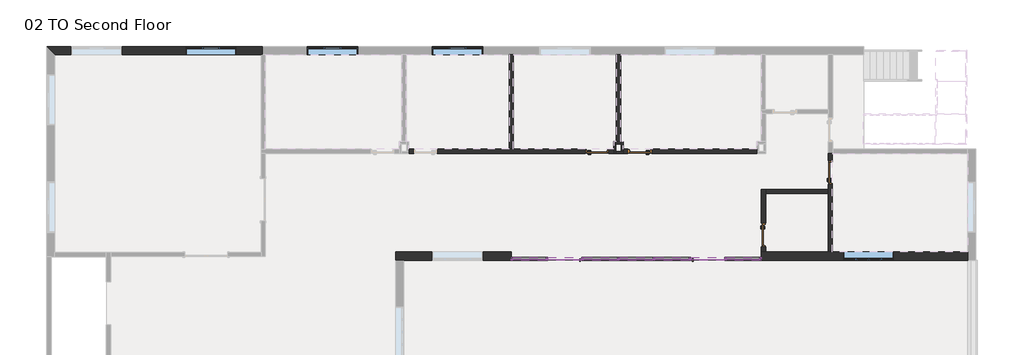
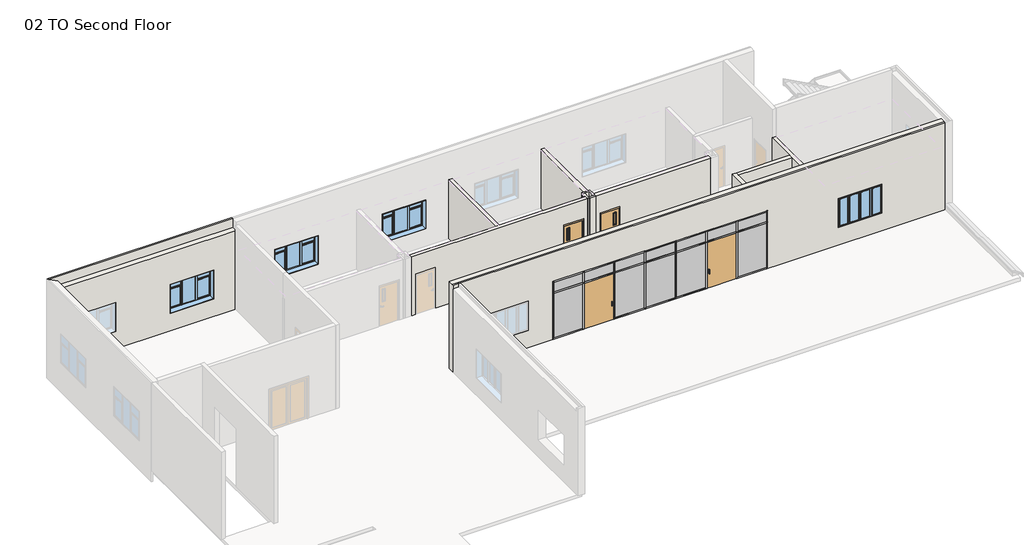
# One storey, part 2 of 3: 35 members, 13 walls, 12 plates, 6 doors, 4 windows.
"""IFC4 building model written with IfcOpenShell, lengths in millimetres."""

from ifc_helpers import new_model, si_unit, frame, origin, place, context, project, spatial, polyline, outline, extrude, faceted_brep, transform, mapped, element, save
from components import door_curtain_wall_single_glass_single_glass_door_636c359d, door_curtain_wall_single_glass_single_glass_door_c1f067f7, door_1f8fe3fe, door_passage_single_vision_lite_a53d2063, door_passage_single_vision_lite_a2a745b5, member_f0fea5a5, member_ee409385, member_5599eeff, member_9faf9a02, member_3e00a44d, member_1f7e5a3f, member_6e77e263, member_47bfaf8a, system_panel_glazed_c45153f5, system_panel_glazed_32f3d69c, system_panel_glazed_47a57bc4, system_panel_glazed_e930eb41, window_c7d59df6, window_casement_triple_side_transom_c3c25feb

model = new_model("IFC4")

# Units and contexts
model_context = context("Model", 3, world=origin())
ifc_project = project(units=[si_unit("LENGTHUNIT", "METRE", prefix="MILLI")], contexts=[model_context])

# Site, building, storey
site = spatial("IfcSite", under=ifc_project)
building = spatial("IfcBuilding", under=site)
storey = spatial("IfcBuildingStorey", under=building, Name="02 TO Second Floor", Elevation=4572.0)

# Doors
placement = place(None, origin())
door_curtain_wall_single_glass_single_glass_door_shape = door_curtain_wall_single_glass_single_glass_door_636c359d(model_context)
element("IfcDoor", 1, ObjectType="Door-Curtain-Wall-Single-Glass : Single Glass Door", at=placement, inside=storey, context=model_context, shape_type="MappedRepresentation", body=[
    mapped(door_curtain_wall_single_glass_single_glass_door_shape, transform((8671.2726299, 179.1996638, 4572.0), x_axis=(1.0, 0.0, 0.0), y_axis=(0.0, 1.0, 0.0), z_axis=(0.0, 0.0, 1.0))),
])
door_curtain_wall_single_glass_single_glass_door_2_shape = door_curtain_wall_single_glass_single_glass_door_c1f067f7(model_context)
element("IfcDoor", 2, ObjectType="Door-Curtain-Wall-Single-Glass : Single Glass Door", at=placement, inside=storey, context=model_context, shape_type="MappedRepresentation", body=[
    mapped(door_curtain_wall_single_glass_single_glass_door_2_shape, transform((2575.2726302, 179.1996638, 4572.0), x_axis=(-1.0, 0.0, 0.0), y_axis=(0.0, -1.0, 0.0), z_axis=(0.0, 0.0, 1.0))),
])
door_shape = door_1f8fe3fe(model_context)
element("IfcDoor", 3, ObjectType="Door-Passage-Single-Flush : Door Passage Single Flush_36\" x 80\"", at=placement, inside=storey, context=model_context, shape_type="MappedRepresentation", body=[
    mapped(door_shape, transform((11055.6976301, 1198.3746638, 4572.0), x_axis=(0.0, -1.0, 0.0), y_axis=(1.0, 0.0, 0.0), z_axis=(0.0, 0.0, 1.0))),
])
door_passage_single_vision_lite_shape = door_passage_single_vision_lite_a53d2063(model_context)
element("IfcDoor", 4, ObjectType="Door-Passage-Single-Vision_Lite : B203010_Door Passage SIngle Vision Lite_36\" x 80\"", at=placement, inside=storey, context=model_context, shape_type="MappedRepresentation", body=[
    mapped(door_passage_single_vision_lite_shape, transform((3946.8726301, 4776.5996638, 4572.0), x_axis=(1.0, 0.0, 0.0), y_axis=(0.0, 1.0, 0.0), z_axis=(0.0, 0.0, 1.0))),
])
door_passage_single_vision_lite_2_shape = door_passage_single_vision_lite_a2a745b5(model_context)
element("IfcDoor", 5, ObjectType="Door-Passage-Single-Vision_Lite : B203010_Door Passage SIngle Vision Lite_36\" x 80\"", at=placement, inside=storey, context=model_context, shape_type="MappedRepresentation", body=[
    mapped(door_passage_single_vision_lite_2_shape, transform((5775.6726301, 4776.5996638, 4572.0), x_axis=(-1.0, 0.0, 0.0), y_axis=(0.0, -1.0, 0.0), z_axis=(0.0, 0.0, 1.0))),
])
element("IfcDoor", 6, ObjectType="Door-Passage-Single-Vision_Lite : B203010_Door Passage SIngle Vision Lite_36\" x 80\"", at=placement, inside=storey, context=model_context, shape_type="MappedRepresentation", body=[
    mapped(door_passage_single_vision_lite_2_shape, transform((13900.4976301, 3865.3746638, 4572.0), x_axis=(0.0, 1.0, 0.0), y_axis=(-1.0, 0.0, 0.0), z_axis=(0.0, 0.0, 1.0))),
])

# Members
member_shape = member_f0fea5a5(model_context)
element("IfcMember", 7, ObjectType="Rectangular Mullion : 2.5\" x 5\" rectangular", at=placement, inside=storey, context=model_context, shape_type="MappedRepresentation", body=[
    mapped(member_shape, transform((1813.2726303, 179.1996638, 4572.0), x_axis=(1.0, 0.0, 0.0), y_axis=(0.0, -1.0, 0.0), z_axis=(0.0, 0.0, -1.0))),
])
element("IfcMember", 8, ObjectType="Rectangular Mullion : 2.5\" x 5\" rectangular", at=placement, inside=storey, context=model_context, shape_type="MappedRepresentation", body=[
    mapped(member_shape, transform((3337.2726302, 179.1996638, 4572.0), x_axis=(1.0, 0.0, 0.0), y_axis=(0.0, -1.0, 0.0), z_axis=(0.0, 0.0, -1.0))),
])
element("IfcMember", 9, ObjectType="Rectangular Mullion : 2.5\" x 5\" rectangular", at=placement, inside=storey, context=model_context, shape_type="MappedRepresentation", body=[
    mapped(member_shape, transform((4861.2726301, 179.1996638, 4572.0), x_axis=(1.0, 0.0, 0.0), y_axis=(0.0, -1.0, 0.0), z_axis=(0.0, 0.0, -1.0))),
])
element("IfcMember", 10, ObjectType="Rectangular Mullion : 2.5\" x 5\" rectangular", at=placement, inside=storey, context=model_context, shape_type="MappedRepresentation", body=[
    mapped(member_shape, transform((6385.27263, 179.1996638, 4572.0), x_axis=(1.0, 0.0, 0.0), y_axis=(0.0, -1.0, 0.0), z_axis=(0.0, 0.0, -1.0))),
])
element("IfcMember", 11, ObjectType="Rectangular Mullion : 2.5\" x 5\" rectangular", at=placement, inside=storey, context=model_context, shape_type="MappedRepresentation", body=[
    mapped(member_shape, transform((7909.2726299, 179.1996638, 4572.0), x_axis=(1.0, 0.0, 0.0), y_axis=(0.0, -1.0, 0.0), z_axis=(0.0, 0.0, -1.0))),
])
element("IfcMember", 12, ObjectType="Rectangular Mullion : 2.5\" x 5\" rectangular", at=placement, inside=storey, context=model_context, shape_type="MappedRepresentation", body=[
    mapped(member_shape, transform((9433.2726298, 179.1996638, 4572.0), x_axis=(1.0, 0.0, 0.0), y_axis=(0.0, -1.0, 0.0), z_axis=(0.0, 0.0, -1.0))),
])
member_2_shape = member_ee409385(model_context)
element("IfcMember", 13, ObjectType="Rectangular Mullion : 2.5\" x 5\" rectangular", at=placement, inside=storey, context=model_context, shape_type="MappedRepresentation", body=[
    mapped(member_2_shape, transform((10957.2726301, 179.1996638, 4572.0), x_axis=(1.0, 0.0, 0.0), y_axis=(0.0, -1.0, 0.0), z_axis=(0.0, 0.0, -1.0))),
])
element("IfcMember", 14, ObjectType="Rectangular Mullion : 2.5\" x 5\" rectangular", at=placement, inside=storey, context=model_context, shape_type="MappedRepresentation", body=[
    mapped(member_2_shape, transform((289.2726301, 179.1996638, 7010.4), x_axis=(-1.0, 0.0, 0.0), y_axis=(0.0, -1.0, 0.0), z_axis=(0.0, 0.0, 1.0))),
])
member_3_shape = member_5599eeff(model_context)
element("IfcMember", 15, ObjectType="Rectangular Mullion : 2.5\" x 5\" rectangular", at=placement, inside=storey, context=model_context, shape_type="MappedRepresentation", body=[
    mapped(member_3_shape, transform((10893.7726301, 179.1996638, 7620.0), x_axis=(0.0, 0.0, 1.0), y_axis=(0.0, -1.0, 0.0), z_axis=(1.0, 0.0, 0.0))),
])
element("IfcMember", 16, ObjectType="Rectangular Mullion : 2.5\" x 5\" rectangular", at=placement, inside=storey, context=model_context, shape_type="MappedRepresentation", body=[
    mapped(member_3_shape, transform((1781.5226303, 179.1996638, 7620.0), x_axis=(0.0, 0.0, 1.0), y_axis=(0.0, -1.0, 0.0), z_axis=(1.0, 0.0, 0.0))),
])
member_4_shape = member_9faf9a02(model_context)
element("IfcMember", 17, ObjectType="Rectangular Mullion : 2.5\" x 5\" rectangular", at=placement, inside=storey, context=model_context, shape_type="MappedRepresentation", body=[
    mapped(member_4_shape, transform((3305.5226302, 179.1996638, 7620.0), x_axis=(0.0, 0.0, 1.0), y_axis=(0.0, -1.0, 0.0), z_axis=(1.0, 0.0, 0.0))),
])
element("IfcMember", 18, ObjectType="Rectangular Mullion : 2.5\" x 5\" rectangular", at=placement, inside=storey, context=model_context, shape_type="MappedRepresentation", body=[
    mapped(member_4_shape, transform((4829.5226301, 179.1996638, 7620.0), x_axis=(0.0, 0.0, 1.0), y_axis=(0.0, -1.0, 0.0), z_axis=(1.0, 0.0, 0.0))),
])
element("IfcMember", 19, ObjectType="Rectangular Mullion : 2.5\" x 5\" rectangular", at=placement, inside=storey, context=model_context, shape_type="MappedRepresentation", body=[
    mapped(member_4_shape, transform((6353.52263, 179.1996638, 7620.0), x_axis=(0.0, 0.0, 1.0), y_axis=(0.0, -1.0, 0.0), z_axis=(1.0, 0.0, 0.0))),
])
element("IfcMember", 20, ObjectType="Rectangular Mullion : 2.5\" x 5\" rectangular", at=placement, inside=storey, context=model_context, shape_type="MappedRepresentation", body=[
    mapped(member_4_shape, transform((7877.5226299, 179.1996638, 7620.0), x_axis=(0.0, 0.0, 1.0), y_axis=(0.0, -1.0, 0.0), z_axis=(1.0, 0.0, 0.0))),
])
element("IfcMember", 21, ObjectType="Rectangular Mullion : 2.5\" x 5\" rectangular", at=placement, inside=storey, context=model_context, shape_type="MappedRepresentation", body=[
    mapped(member_4_shape, transform((9401.5226298, 179.1996638, 7620.0), x_axis=(0.0, 0.0, 1.0), y_axis=(0.0, -1.0, 0.0), z_axis=(1.0, 0.0, 0.0))),
])
element("IfcMember", 22, ObjectType="Rectangular Mullion : 2.5\" x 5\" rectangular", at=placement, inside=storey, context=model_context, shape_type="MappedRepresentation", body=[
    mapped(member_3_shape, transform((352.7726301, 179.1996638, 4572.0), x_axis=(0.0, 0.0, -1.0), y_axis=(0.0, -1.0, 0.0), z_axis=(-1.0, 0.0, 0.0))),
])
element("IfcMember", 23, ObjectType="Rectangular Mullion : 2.5\" x 5\" rectangular", at=placement, inside=storey, context=model_context, shape_type="MappedRepresentation", body=[
    mapped(member_3_shape, transform((9465.0226298, 179.1996638, 4572.0), x_axis=(0.0, 0.0, -1.0), y_axis=(0.0, -1.0, 0.0), z_axis=(-1.0, 0.0, 0.0))),
])
element("IfcMember", 24, ObjectType="Rectangular Mullion : 2.5\" x 5\" rectangular", at=placement, inside=storey, context=model_context, shape_type="MappedRepresentation", body=[
    mapped(member_4_shape, transform((3369.0226302, 179.1996638, 4572.0), x_axis=(0.0, 0.0, -1.0), y_axis=(0.0, -1.0, 0.0), z_axis=(-1.0, 0.0, 0.0))),
])
element("IfcMember", 25, ObjectType="Rectangular Mullion : 2.5\" x 5\" rectangular", at=placement, inside=storey, context=model_context, shape_type="MappedRepresentation", body=[
    mapped(member_4_shape, transform((4893.0226301, 179.1996638, 4572.0), x_axis=(0.0, 0.0, -1.0), y_axis=(0.0, -1.0, 0.0), z_axis=(-1.0, 0.0, 0.0))),
])
element("IfcMember", 26, ObjectType="Rectangular Mullion : 2.5\" x 5\" rectangular", at=placement, inside=storey, context=model_context, shape_type="MappedRepresentation", body=[
    mapped(member_4_shape, transform((6417.02263, 179.1996638, 4572.0), x_axis=(0.0, 0.0, -1.0), y_axis=(0.0, -1.0, 0.0), z_axis=(-1.0, 0.0, 0.0))),
])
member_5_shape = member_3e00a44d(model_context)
element("IfcMember", 27, ObjectType="Rectangular Mullion : 2.5\" x 5\" rectangular", at=placement, inside=storey, context=model_context, shape_type="MappedRepresentation", body=[
    mapped(member_5_shape, transform((1781.5226303, 179.1996638, 7010.4), x_axis=(0.0, 0.0, 1.0), y_axis=(0.0, -1.0, 0.0), z_axis=(1.0, 0.0, 0.0))),
])
element("IfcMember", 28, ObjectType="Rectangular Mullion : 2.5\" x 5\" rectangular", at=placement, inside=storey, context=model_context, shape_type="MappedRepresentation", body=[
    mapped(member_5_shape, transform((10893.7726301, 179.1996638, 7010.4), x_axis=(0.0, 0.0, 1.0), y_axis=(0.0, -1.0, 0.0), z_axis=(1.0, 0.0, 0.0))),
])
member_6_shape = member_1f7e5a3f(model_context)
element("IfcMember", 29, ObjectType="Rectangular Mullion : 2.5\" x 5\" rectangular", at=placement, inside=storey, context=model_context, shape_type="MappedRepresentation", body=[
    mapped(member_6_shape, transform((3305.5226302, 179.1996638, 7010.4), x_axis=(0.0, 0.0, 1.0), y_axis=(0.0, -1.0, 0.0), z_axis=(1.0, 0.0, 0.0))),
])
element("IfcMember", 30, ObjectType="Rectangular Mullion : 2.5\" x 5\" rectangular", at=placement, inside=storey, context=model_context, shape_type="MappedRepresentation", body=[
    mapped(member_6_shape, transform((4829.5226301, 179.1996638, 7010.4), x_axis=(0.0, 0.0, 1.0), y_axis=(0.0, -1.0, 0.0), z_axis=(1.0, 0.0, 0.0))),
])
element("IfcMember", 31, ObjectType="Rectangular Mullion : 2.5\" x 5\" rectangular", at=placement, inside=storey, context=model_context, shape_type="MappedRepresentation", body=[
    mapped(member_6_shape, transform((6353.52263, 179.1996638, 7010.4), x_axis=(0.0, 0.0, 1.0), y_axis=(0.0, -1.0, 0.0), z_axis=(1.0, 0.0, 0.0))),
])
element("IfcMember", 32, ObjectType="Rectangular Mullion : 2.5\" x 5\" rectangular", at=placement, inside=storey, context=model_context, shape_type="MappedRepresentation", body=[
    mapped(member_6_shape, transform((7877.5226299, 179.1996638, 7010.4), x_axis=(0.0, 0.0, 1.0), y_axis=(0.0, -1.0, 0.0), z_axis=(1.0, 0.0, 0.0))),
])
element("IfcMember", 33, ObjectType="Rectangular Mullion : 2.5\" x 5\" rectangular", at=placement, inside=storey, context=model_context, shape_type="MappedRepresentation", body=[
    mapped(member_6_shape, transform((9401.5226298, 179.1996638, 7010.4), x_axis=(0.0, 0.0, 1.0), y_axis=(0.0, -1.0, 0.0), z_axis=(1.0, 0.0, 0.0))),
])
member_7_shape = member_6e77e263(model_context)
element("IfcMember", 34, ObjectType="Rectangular Mullion : 2.5\" x 5\" rectangular", at=placement, inside=storey, context=model_context, shape_type="MappedRepresentation", body=[
    mapped(member_7_shape, transform((1813.2726303, 179.1996638, 7010.4), x_axis=(1.0, 0.0, 0.0), y_axis=(0.0, -1.0, 0.0), z_axis=(0.0, 0.0, -1.0))),
])
element("IfcMember", 35, ObjectType="Rectangular Mullion : 2.5\" x 5\" rectangular", at=placement, inside=storey, context=model_context, shape_type="MappedRepresentation", body=[
    mapped(member_7_shape, transform((3337.2726302, 179.1996638, 7010.4), x_axis=(1.0, 0.0, 0.0), y_axis=(0.0, -1.0, 0.0), z_axis=(0.0, 0.0, -1.0))),
])
element("IfcMember", 36, ObjectType="Rectangular Mullion : 2.5\" x 5\" rectangular", at=placement, inside=storey, context=model_context, shape_type="MappedRepresentation", body=[
    mapped(member_7_shape, transform((4861.2726301, 179.1996638, 7010.4), x_axis=(1.0, 0.0, 0.0), y_axis=(0.0, -1.0, 0.0), z_axis=(0.0, 0.0, -1.0))),
])
element("IfcMember", 37, ObjectType="Rectangular Mullion : 2.5\" x 5\" rectangular", at=placement, inside=storey, context=model_context, shape_type="MappedRepresentation", body=[
    mapped(member_7_shape, transform((6385.27263, 179.1996638, 7010.4), x_axis=(1.0, 0.0, 0.0), y_axis=(0.0, -1.0, 0.0), z_axis=(0.0, 0.0, -1.0))),
])
element("IfcMember", 38, ObjectType="Rectangular Mullion : 2.5\" x 5\" rectangular", at=placement, inside=storey, context=model_context, shape_type="MappedRepresentation", body=[
    mapped(member_7_shape, transform((7909.2726299, 179.1996638, 7010.4), x_axis=(1.0, 0.0, 0.0), y_axis=(0.0, -1.0, 0.0), z_axis=(0.0, 0.0, -1.0))),
])
element("IfcMember", 39, ObjectType="Rectangular Mullion : 2.5\" x 5\" rectangular", at=placement, inside=storey, context=model_context, shape_type="MappedRepresentation", body=[
    mapped(member_7_shape, transform((9433.2726298, 179.1996638, 7010.4), x_axis=(1.0, 0.0, 0.0), y_axis=(0.0, -1.0, 0.0), z_axis=(0.0, 0.0, -1.0))),
])
member_8_shape = member_47bfaf8a(model_context)
element("IfcMember", 40, ObjectType="Rectangular Mullion : 2.5\" x 5\" rectangular", at=placement, inside=storey, context=model_context, shape_type="MappedRepresentation", body=[
    mapped(member_8_shape, transform((10957.2726301, 179.1996638, 7010.4), x_axis=(1.0, 0.0, 0.0), y_axis=(0.0, -1.0, 0.0), z_axis=(0.0, 0.0, -1.0))),
])
element("IfcMember", 41, ObjectType="Rectangular Mullion : 2.5\" x 5\" rectangular", at=placement, inside=storey, context=model_context, shape_type="MappedRepresentation", body=[
    mapped(member_8_shape, transform((289.2726301, 179.1996638, 7620.0), x_axis=(-1.0, 0.0, 0.0), y_axis=(0.0, -1.0, 0.0), z_axis=(0.0, 0.0, 1.0))),
])

# Plates
system_panel_glazed_shape = system_panel_glazed_c45153f5(model_context)
element("IfcPlate", 42, ObjectType="System Panel : Glazed", at=placement, inside=storey, context=model_context, shape_type="MappedRepresentation", body=[
    mapped(system_panel_glazed_shape, transform((1067.1476302, 179.1996638, 4635.5), x_axis=(1.0, 0.0, 0.0), y_axis=(0.0, 1.0, 0.0), z_axis=(0.0, 0.0, 1.0))),
])
element("IfcPlate", 43, ObjectType="System Panel : Glazed", at=placement, inside=storey, context=model_context, shape_type="MappedRepresentation", body=[
    mapped(system_panel_glazed_shape, transform((10179.3976299, 179.1996638, 4635.5), x_axis=(1.0, 0.0, 0.0), y_axis=(0.0, 1.0, 0.0), z_axis=(0.0, 0.0, 1.0))),
])
system_panel_glazed_2_shape = system_panel_glazed_32f3d69c(model_context)
element("IfcPlate", 44, ObjectType="System Panel : Glazed", at=placement, inside=storey, context=model_context, shape_type="MappedRepresentation", body=[
    mapped(system_panel_glazed_2_shape, transform((4099.2726301, 179.1996638, 4635.5), x_axis=(1.0, 0.0, 0.0), y_axis=(0.0, 1.0, 0.0), z_axis=(0.0, 0.0, 1.0))),
])
element("IfcPlate", 45, ObjectType="System Panel : Glazed", at=placement, inside=storey, context=model_context, shape_type="MappedRepresentation", body=[
    mapped(system_panel_glazed_2_shape, transform((5623.2726301, 179.1996638, 4635.5), x_axis=(1.0, 0.0, 0.0), y_axis=(0.0, 1.0, 0.0), z_axis=(0.0, 0.0, 1.0))),
])
element("IfcPlate", 46, ObjectType="System Panel : Glazed", at=placement, inside=storey, context=model_context, shape_type="MappedRepresentation", body=[
    mapped(system_panel_glazed_2_shape, transform((7147.27263, 179.1996638, 4635.5), x_axis=(1.0, 0.0, 0.0), y_axis=(0.0, 1.0, 0.0), z_axis=(0.0, 0.0, 1.0))),
])
system_panel_glazed_3_shape = system_panel_glazed_47a57bc4(model_context)
element("IfcPlate", 47, ObjectType="System Panel : Glazed", at=placement, inside=storey, context=model_context, shape_type="MappedRepresentation", body=[
    mapped(system_panel_glazed_3_shape, transform((1067.1476302, 179.1996638, 7042.15), x_axis=(1.0, 0.0, 0.0), y_axis=(0.0, 1.0, 0.0), z_axis=(0.0, 0.0, 1.0))),
])
element("IfcPlate", 48, ObjectType="System Panel : Glazed", at=placement, inside=storey, context=model_context, shape_type="MappedRepresentation", body=[
    mapped(system_panel_glazed_3_shape, transform((10179.3976299, 179.1996638, 7042.15), x_axis=(1.0, 0.0, 0.0), y_axis=(0.0, 1.0, 0.0), z_axis=(0.0, 0.0, 1.0))),
])
system_panel_glazed_4_shape = system_panel_glazed_e930eb41(model_context)
element("IfcPlate", 49, ObjectType="System Panel : Glazed", at=placement, inside=storey, context=model_context, shape_type="MappedRepresentation", body=[
    mapped(system_panel_glazed_4_shape, transform((2575.2726302, 179.1996638, 7042.15), x_axis=(1.0, 0.0, 0.0), y_axis=(0.0, 1.0, 0.0), z_axis=(0.0, 0.0, 1.0))),
])
element("IfcPlate", 50, ObjectType="System Panel : Glazed", at=placement, inside=storey, context=model_context, shape_type="MappedRepresentation", body=[
    mapped(system_panel_glazed_4_shape, transform((4099.2726301, 179.1996638, 7042.15), x_axis=(1.0, 0.0, 0.0), y_axis=(0.0, 1.0, 0.0), z_axis=(0.0, 0.0, 1.0))),
])
element("IfcPlate", 51, ObjectType="System Panel : Glazed", at=placement, inside=storey, context=model_context, shape_type="MappedRepresentation", body=[
    mapped(system_panel_glazed_4_shape, transform((5623.2726301, 179.1996638, 7042.15), x_axis=(1.0, 0.0, 0.0), y_axis=(0.0, 1.0, 0.0), z_axis=(0.0, 0.0, 1.0))),
])
element("IfcPlate", 52, ObjectType="System Panel : Glazed", at=placement, inside=storey, context=model_context, shape_type="MappedRepresentation", body=[
    mapped(system_panel_glazed_4_shape, transform((7147.27263, 179.1996638, 7042.15), x_axis=(1.0, 0.0, 0.0), y_axis=(0.0, 1.0, 0.0), z_axis=(0.0, 0.0, 1.0))),
])
element("IfcPlate", 53, ObjectType="System Panel : Glazed", at=placement, inside=storey, context=model_context, shape_type="MappedRepresentation", body=[
    mapped(system_panel_glazed_4_shape, transform((8671.2726299, 179.1996638, 7042.15), x_axis=(1.0, 0.0, 0.0), y_axis=(0.0, 1.0, 0.0), z_axis=(0.0, 0.0, 1.0))),
])

# Walls
element("IfcWall", 54, ObjectType="Ext Wall_14\"_Brick on CMU", at=placement, inside=storey, context=model_context, shape_type="Brep", body=[
    faceted_brep([(-19167.1273699, 8894.5746638, 4572.0), (-10378.7273699, 8894.5746638, 4572.0), (-10331.1023699, 8894.5746638, 4572.0), (-10331.1023699, 8894.5746638, 8686.8), (-19167.1273699, 8894.5746638, 8686.8), (-11432.8273699, 8894.5746638, 7010.4), (-11432.8273699, 8894.5746638, 5486.4), (-13591.8273699, 8894.5746638, 5486.4), (-13591.8273699, 8894.5746638, 7010.4), (-16309.6273699, 8894.5746638, 7010.4), (-16309.6273699, 8894.5746638, 5486.4), (-18468.6273699, 8894.5746638, 5486.4), (-18468.6273699, 8894.5746638, 7010.4), (-19522.7273699, 9250.1746638, 9144.0), (-10331.1023699, 9250.1746638, 9144.0), (-10331.1023699, 9250.1746638, 4572.0), (-10331.1023699, 9250.1746638, 3962.4), (-19522.7273699, 9250.1746638, 3962.4), (-11432.8273699, 9250.1746638, 5486.4), (-11432.8273699, 9250.1746638, 7010.4), (-13591.8273699, 9250.1746638, 7010.4), (-13591.8273699, 9250.1746638, 5486.4), (-16309.6273699, 9250.1746638, 5486.4), (-16309.6273699, 9250.1746638, 7010.4), (-18468.6273699, 9250.1746638, 7010.4), (-18468.6273699, 9250.1746638, 5486.4), (-19446.5273699, 9173.9746638, 8686.8), (-19446.5273699, 9173.9746638, 9144.0), (-19446.5273699, 9173.9746638, 3962.4), (-19446.5273699, 9173.9746638, 4572.0), (-19421.1273699, 9148.5746638, 4572.0), (-10331.1023699, 9173.9746638, 4572.0), (-10331.1023699, 9148.5746638, 4572.0), (-10331.1023699, 9173.9746638, 3962.4), (-10331.1023699, 9173.9746638, 9144.0), (-10331.1023699, 9173.9746638, 8686.8)], [[[0, 1, 2, 3, 4], [5, 6, 7, 8], [9, 10, 11, 12]], [[13, 14, 15, 16, 17], [18, 19, 20, 21], [22, 23, 24, 25]], [[0, 4, 26, 27, 13, 17, 28, 29, 30]], [[6, 5, 19, 18]], [[7, 6, 18, 21]], [[8, 7, 21, 20]], [[5, 8, 20, 19]], [[10, 9, 23, 22]], [[11, 10, 22, 25]], [[12, 11, 25, 24]], [[9, 12, 24, 23]], [[2, 1, 0, 30, 29, 31, 32]], [[31, 29, 28, 33]], [[28, 17, 16, 33]], [[33, 16, 15, 14, 34, 35, 3, 2, 32, 31]], [[14, 13, 27, 34]], [[34, 27, 26, 35]], [[4, 3, 35, 26]]]),
])
element("IfcWall", 55, ObjectType="Ext Wall_14\"_Brick on CMU", at=placement, inside=storey, context=model_context, shape_type="Brep", body=[
    faceted_brep([(-4638.3273699, 471.2996638, 4572.0), (-4638.3273699, 471.2996638, 9144.0), (19745.6726301, 471.2996638, 9144.0), (19745.6726301, 471.2996638, 4572.0), (13986.2226301, 471.2996638, 4572.0), (13802.0726301, 471.2996638, 4572.0), (11141.4226301, 471.2996638, 4572.0), (10957.2726301, 471.2996638, 4572.0), (10957.2726301, 471.2996638, 7620.0), (289.2726301, 471.2996638, 7620.0), (289.2726301, 471.2996638, 4572.0), (-3076.2273699, 471.2996638, 7010.4), (-3076.2273699, 471.2996638, 5486.4), (-917.2273699, 471.2996638, 5486.4), (-917.2273699, 471.2996638, 7010.4), (14449.7726301, 471.2996638, 7010.4), (14449.7726301, 471.2996638, 5486.4), (16608.7726301, 471.2996638, 5486.4), (16608.7726301, 471.2996638, 7010.4), (19745.6726301, 115.6996638, 9144.0), (-4282.7273699, 115.6996638, 9144.0), (-4384.3273699, 115.6996638, 9144.0), (-4638.3273699, 115.6996638, 9144.0), (-4638.3273699, 115.6996638, 8966.2), (-4638.3273699, 115.6996638, 4572.0), (-4282.7273699, 115.6996638, 4572.0), (289.2726301, 115.6996638, 4572.0), (289.2726301, 115.6996638, 7620.0), (10957.2726301, 115.6996638, 7620.0), (10957.2726301, 115.6996638, 4572.0), (19745.6726301, 115.6996638, 4572.0), (-3076.2273699, 115.6996638, 7010.4), (-917.2273699, 115.6996638, 7010.4), (-917.2273699, 115.6996638, 5486.4), (-3076.2273699, 115.6996638, 5486.4), (14449.7726301, 115.6996638, 7010.4), (16608.7726301, 115.6996638, 7010.4), (16608.7726301, 115.6996638, 5486.4), (14449.7726301, 115.6996638, 5486.4), (-4638.3273699, 191.8996638, 4572.0), (-4638.3273699, 191.8996638, 9144.0), (289.2726301, 191.8996638, 4572.0), (10957.2726301, 191.8996638, 4572.0), (19745.6726301, 196.6621638, 9144.0), (19745.6726301, 191.8996638, 9144.0), (19745.6726301, 191.8996638, 4572.0)], [[[0, 1, 2, 3, 4, 5, 6, 7, 8, 9, 10], [11, 12, 13, 14], [15, 16, 17, 18]], [[19, 20, 21, 22, 23, 24, 25, 26, 27, 28, 29, 30], [31, 32, 33, 34], [35, 36, 37, 38]], [[1, 0, 39, 24, 23, 22, 40]], [[9, 27, 26, 41, 10]], [[27, 9, 8, 28]], [[28, 8, 7, 42, 29]], [[12, 11, 31, 34]], [[13, 12, 34, 33]], [[14, 13, 33, 32]], [[11, 14, 32, 31]], [[16, 15, 35, 38]], [[17, 16, 38, 37]], [[18, 17, 37, 36]], [[15, 18, 36, 35]], [[3, 2, 43, 44, 19, 30, 45]], [[39, 0, 10, 41]], [[3, 45, 42, 7, 6, 5, 4]], [[24, 39, 41, 26, 25]], [[45, 30, 29, 42]], [[22, 21, 20, 19, 44, 40]], [[2, 1, 40, 44, 43]]]),
])
element("IfcWall", 56, ObjectType="IntWall_P1_7 1/4\"", at=placement, inside=storey, context=model_context, shape_type="Brep", body=[
    faceted_brep([(5064.9511878, 4862.3246638, 7670.8), (10754.0726301, 4862.3246638, 7670.8), (10754.0726301, 4862.3246638, 4572.0), (6283.6726301, 4862.3246638, 4572.0), (6283.6726301, 4862.3246638, 6705.6), (5267.6726301, 4862.3246638, 6705.6), (5267.6726301, 4862.3246638, 4572.0), (5064.9511878, 4862.3246638, 4572.0), (10754.0726301, 4678.1746638, 7670.8), (5064.9511878, 4678.1746638, 7670.8), (5064.9511878, 4678.1746638, 4572.0), (5267.6726301, 4678.1746638, 4572.0), (5267.6726301, 4678.1746638, 6705.6), (6283.6726301, 4678.1746638, 6705.6), (6283.6726301, 4678.1746638, 4572.0), (10754.0726301, 4678.1746638, 4572.0), (5064.9511878, 4770.2496638, 4572.0), (10754.0726301, 4770.2496638, 4572.0), (5064.9511878, 4770.2496638, 7670.8), (10754.0726301, 4770.2496638, 7670.8)], [[[0, 1, 2, 3, 4, 5, 6, 7]], [[8, 9, 10, 11, 12, 13, 14, 15]], [[10, 16, 7, 6, 11]], [[2, 17, 15, 14, 3]], [[1, 0, 18, 9, 8, 19]], [[0, 7, 16, 10, 9, 18]], [[2, 1, 19, 8, 15, 17]], [[5, 12, 11, 6]], [[12, 5, 4, 13]], [[13, 4, 3, 14]]]),
])
element("IfcWall", 57, ObjectType="IntWall_P1_7 1/4\"", at=placement, inside=storey, context=model_context, shape_type="SweptSolid", body=[
    extrude(outline(polyline([(197.1976301, 4862.3246638), (197.1976301, 8894.5746638), (381.3476301, 8894.5746638), (381.3476301, 4862.3246638), (197.1976301, 4862.3246638)])), frame((0.0, 0.0, 4572.0), z_axis=(0.0, 0.0, 1.0), x_axis=(1.0, 0.0, 0.0)), (0.0, 0.0, 1.0), 3098.8),
])
element("IfcWall", 58, ObjectType="IntWall_P1_7 1/4\"", at=placement, inside=storey, context=model_context, shape_type="SweptSolid", body=[
    extrude(outline(polyline([(4769.1976301, 5186.1746638), (4769.1976301, 8894.5746638), (4953.3476301, 8894.5746638), (4953.3476301, 5186.1746638), (4769.1976301, 5186.1746638)])), frame((0.0, 0.0, 4572.0), z_axis=(0.0, 0.0, 1.0), x_axis=(1.0, 0.0, 0.0)), (0.0, 0.0, 1.0), 3098.8),
])
element("IfcWall", 59, ObjectType="IntWall_P1_7 1/4\"", at=placement, inside=storey, context=model_context, shape_type="Brep", body=[
    faceted_brep([(10957.2726301, 471.2996638, 7670.8), (10957.2726301, 3154.1746638, 7670.8), (10957.2726301, 3154.1746638, 4572.0), (10957.2726301, 1706.3746638, 4572.0), (10957.2726301, 1706.3746638, 6705.6), (10957.2726301, 690.3746638, 6705.6), (10957.2726301, 690.3746638, 4572.0), (10957.2726301, 471.2996638, 4572.0), (10957.2726301, 471.2996638, 7620.0), (11141.4226301, 3154.1746638, 7670.8), (11141.4226301, 2970.0246638, 7670.8), (11141.4226301, 471.2996638, 7670.8), (11141.4226301, 471.2996638, 4572.0), (11141.4226301, 690.3746638, 4572.0), (11141.4226301, 690.3746638, 6705.6), (11141.4226301, 1706.3746638, 6705.6), (11141.4226301, 1706.3746638, 4572.0), (11141.4226301, 2970.0246638, 4572.0), (11141.4226301, 3154.1746638, 4572.0)], [[[0, 1, 2, 3, 4, 5, 6, 7, 8]], [[9, 10, 11, 12, 13, 14, 15, 16, 17, 18]], [[12, 7, 6, 13]], [[2, 18, 17, 16, 3]], [[1, 0, 11, 10, 9]], [[0, 8, 7, 12, 11]], [[2, 1, 9, 18]], [[5, 14, 13, 6]], [[14, 5, 4, 15]], [[15, 4, 3, 16]]]),
])
element("IfcWall", 60, ObjectType="IntWall_P1_7 1/4\"", at=placement, inside=storey, context=model_context, shape_type="Brep", body=[
    faceted_brep([(13802.0726301, 471.2996638, 7670.8), (13802.0726301, 2970.0246638, 7670.8), (13802.0726301, 3154.1746638, 7670.8), (13802.0726301, 4678.1746638, 7670.8), (13802.0726301, 4678.1746638, 4572.0), (13802.0726301, 4373.3746638, 4572.0), (13802.0726301, 4373.3746638, 6705.6), (13802.0726301, 3357.3746638, 6705.6), (13802.0726301, 3357.3746638, 4572.0), (13802.0726301, 3154.1746638, 4572.0), (13802.0726301, 2970.0246638, 4572.0), (13802.0726301, 471.2996638, 4572.0), (13986.2226301, 4678.1746638, 7670.8), (13986.2226301, 471.2996638, 7670.8), (13986.2226301, 471.2996638, 4572.0), (13986.2226301, 3357.3746638, 4572.0), (13986.2226301, 3357.3746638, 6705.6), (13986.2226301, 4373.3746638, 6705.6), (13986.2226301, 4373.3746638, 4572.0), (13986.2226301, 4678.1746638, 4572.0)], [[[0, 1, 2, 3, 4, 5, 6, 7, 8, 9, 10, 11]], [[12, 13, 14, 15, 16, 17, 18, 19]], [[4, 19, 18, 5]], [[14, 11, 10, 9, 8, 15]], [[3, 2, 1, 0, 13, 12]], [[4, 3, 12, 19]], [[0, 11, 14, 13]], [[17, 6, 5, 18]], [[6, 17, 16, 7]], [[7, 16, 15, 8]]]),
])
element("IfcWall", 61, ObjectType="IntWall_P1_7 1/4\"", at=placement, inside=storey, context=model_context, shape_type="SweptSolid", body=[
    extrude(outline(polyline([(13802.0726301, 2970.0246638), (11141.4226301, 2970.0246638), (11141.4226301, 3154.1746638), (13802.0726301, 3154.1746638), (13802.0726301, 2970.0246638)])), frame((0.0, 0.0, 4572.0), z_axis=(0.0, 0.0, 1.0), x_axis=(1.0, 0.0, 0.0)), (0.0, 0.0, 1.0), 3098.8),
])
element("IfcWall", 62, ObjectType="IntWall_P1_7 1/4\"", at=placement, inside=storey, context=model_context, shape_type="Brep", body=[
    faceted_brep([(-4079.0488122, 4862.3246638, 7670.8), (197.1976301, 4862.3246638, 7670.8), (381.3476301, 4862.3246638, 7670.8), (4657.5940723, 4862.3246638, 7670.8), (4657.5940723, 4862.3246638, 4572.0), (4454.8726301, 4862.3246638, 4572.0), (4454.8726301, 4862.3246638, 6705.6), (3438.8726301, 4862.3246638, 6705.6), (3438.8726301, 4862.3246638, 4572.0), (381.3476301, 4862.3246638, 4572.0), (197.1976301, 4862.3246638, 4572.0), (-2860.3273699, 4862.3246638, 4572.0), (-2860.3273699, 4862.3246638, 6705.6), (-3876.3273699, 4862.3246638, 6705.6), (-3876.3273699, 4862.3246638, 4572.0), (-4079.0488122, 4862.3246638, 4572.0), (4657.5940723, 4678.1746638, 7670.8), (-4079.0488122, 4678.1746638, 7670.8), (-4079.0488122, 4678.1746638, 4572.0), (-3876.3273699, 4678.1746638, 4572.0), (-3876.3273699, 4678.1746638, 6705.6), (-2860.3273699, 4678.1746638, 6705.6), (-2860.3273699, 4678.1746638, 4572.0), (3438.8726301, 4678.1746638, 4572.0), (3438.8726301, 4678.1746638, 6705.6), (4454.8726301, 4678.1746638, 6705.6), (4454.8726301, 4678.1746638, 4572.0), (4657.5940723, 4678.1746638, 4572.0), (-4079.0488122, 4770.2496638, 4572.0), (-4079.0488122, 4770.2496638, 7670.8)], [[[0, 1, 2, 3, 4, 5, 6, 7, 8, 9, 10, 11, 12, 13, 14, 15]], [[16, 17, 18, 19, 20, 21, 22, 23, 24, 25, 26, 27]], [[18, 28, 15, 14, 19]], [[4, 27, 26, 5]], [[8, 23, 22, 11, 10, 9]], [[3, 2, 1, 0, 29, 17, 16]], [[0, 15, 28, 18, 17, 29]], [[4, 3, 16, 27]], [[25, 6, 5, 26]], [[6, 25, 24, 7]], [[7, 24, 23, 8]], [[13, 20, 19, 14]], [[20, 13, 12, 21]], [[21, 12, 11, 22]]]),
])
element("IfcWall", 63, ObjectType="IntWall_P3_3 5/8\"", at=placement, inside=storey, context=model_context, shape_type="Brep", body=[
    faceted_brep([(4657.5940723, 5094.0996638, 4572.0), (4749.6690723, 5094.0996638, 4572.0), (4972.8761878, 5094.0996638, 4572.0), (4972.8761878, 5094.0996638, 7670.8), (4749.6690723, 5094.0996638, 7670.8), (4657.5940723, 5094.0996638, 7670.8), (4657.5940723, 5186.1746638, 4572.0), (4657.5940723, 5186.1746638, 7670.8), (4769.1976301, 5186.1746638, 7670.8), (4953.3476301, 5186.1746638, 7670.8), (4972.8761878, 5186.1746638, 7670.8), (4972.8761878, 5186.1746638, 4572.0), (4953.3476301, 5186.1746638, 4572.0), (4769.1976301, 5186.1746638, 4572.0)], [[[0, 1, 2, 3, 4, 5]], [[6, 7, 8, 9, 10, 11, 12, 13]], [[2, 1, 0, 6, 13, 12, 11]], [[5, 4, 3, 10, 9, 8, 7]], [[0, 5, 7, 6]], [[3, 2, 11, 10]]]),
])
element("IfcWall", 64, ObjectType="IntWall_P3_3 5/8\"", at=placement, inside=storey, context=model_context, shape_type="Brep", body=[
    faceted_brep([(4749.6690723, 4678.1746638, 4572.0), (4749.6690723, 4770.2496638, 4572.0), (4749.6690723, 5094.0996638, 4572.0), (4749.6690723, 5094.0996638, 7670.8), (4749.6690723, 4770.2496638, 7670.8), (4749.6690723, 4678.1746638, 7670.8), (4657.5940723, 4678.1746638, 4572.0), (4657.5940723, 4678.1746638, 7670.8), (4657.5940723, 4862.3246638, 7670.8), (4657.5940723, 5094.0996638, 7670.8), (4657.5940723, 5094.0996638, 4572.0), (4657.5940723, 4862.3246638, 4572.0)], [[[0, 1, 2, 3, 4, 5]], [[6, 7, 8, 9, 10, 11]], [[2, 1, 0, 6, 11, 10]], [[5, 4, 3, 9, 8, 7]], [[0, 5, 7, 6]], [[3, 2, 10, 9]]]),
])
element("IfcWall", 65, ObjectType="IntWall_P3_3 5/8\"", at=placement, inside=storey, context=model_context, shape_type="Brep", body=[
    faceted_brep([(5064.9511878, 4770.2496638, 4572.0), (4972.8761878, 4770.2496638, 4572.0), (4749.6690723, 4770.2496638, 4572.0), (4749.6690723, 4770.2496638, 7670.8), (4972.8761878, 4770.2496638, 7670.8), (5064.9511878, 4770.2496638, 7670.8), (5064.9511878, 4678.1746638, 4572.0), (5064.9511878, 4678.1746638, 7670.8), (4749.6690723, 4678.1746638, 7670.8), (4749.6690723, 4678.1746638, 4572.0)], [[[0, 1, 2, 3, 4, 5]], [[6, 7, 8, 9]], [[2, 1, 0, 6, 9]], [[5, 4, 3, 8, 7]], [[0, 5, 7, 6]], [[3, 2, 9, 8]]]),
])
element("IfcWall", 66, ObjectType="IntWall_P3_3 5/8\"", at=placement, inside=storey, context=model_context, shape_type="Brep", body=[
    faceted_brep([(4972.8761878, 5186.1746638, 4572.0), (4972.8761878, 5094.0996638, 4572.0), (4972.8761878, 4770.2496638, 4572.0), (4972.8761878, 4770.2496638, 7670.8), (4972.8761878, 5094.0996638, 7670.8), (4972.8761878, 5186.1746638, 7670.8), (5064.9511878, 5186.1746638, 4572.0), (5064.9511878, 5186.1746638, 7670.8), (5064.9511878, 4862.3246638, 7670.8), (5064.9511878, 4770.2496638, 7670.8), (5064.9511878, 4770.2496638, 4572.0), (5064.9511878, 4862.3246638, 4572.0)], [[[0, 1, 2, 3, 4, 5]], [[6, 7, 8, 9, 10, 11]], [[2, 1, 0, 6, 11, 10]], [[5, 4, 3, 9, 8, 7]], [[0, 5, 7, 6]], [[3, 2, 10, 9]]]),
])

# Windows
window_shape = window_c7d59df6(model_context)
element("IfcWindow", 67, ObjectType="Window-Casement-Multi-Sash-Horizontal : Multi Sash Window_A_85\" x 60\"", at=placement, inside=storey, context=model_context, shape_type="MappedRepresentation", body=[
    mapped(window_shape, transform((15529.2726301, 293.4996638, 4572.0), x_axis=(-1.0, 0.0, 0.0), y_axis=(0.0, -1.0, 0.0), z_axis=(0.0, 0.0, 1.0))),
])
window_casement_triple_side_transom_shape = window_casement_triple_side_transom_c3c25feb(model_context)
element("IfcWindow", 68, ObjectType="Window-Casement-Triple-Side-Transom : Triple Side WIndow_B_85\" x 60\"", at=placement, inside=storey, context=model_context, shape_type="MappedRepresentation", body=[
    mapped(window_casement_triple_side_transom_shape, transform((-7330.7273699, 9072.3746638, 4572.0), x_axis=(1.0, 0.0, 0.0), y_axis=(0.0, 1.0, 0.0), z_axis=(0.0, 0.0, 1.0))),
])
element("IfcWindow", 69, ObjectType="Window-Casement-Triple-Side-Transom : Triple Side WIndow_B_85\" x 60\"", at=placement, inside=storey, context=model_context, shape_type="MappedRepresentation", body=[
    mapped(window_casement_triple_side_transom_shape, transform((-1996.7273699, 9072.3746638, 4572.0), x_axis=(1.0, 0.0, 0.0), y_axis=(0.0, 1.0, 0.0), z_axis=(0.0, 0.0, 1.0))),
])
element("IfcWindow", 70, ObjectType="Window-Casement-Triple-Side-Transom : Triple Side WIndow_B_85\" x 60\"", at=placement, inside=storey, context=model_context, shape_type="MappedRepresentation", body=[
    mapped(window_casement_triple_side_transom_shape, transform((-12512.3273699, 9072.3746638, 4572.0), x_axis=(1.0, 0.0, 0.0), y_axis=(0.0, 1.0, 0.0), z_axis=(0.0, 0.0, 1.0))),
])

save(model, "model.ifc")
